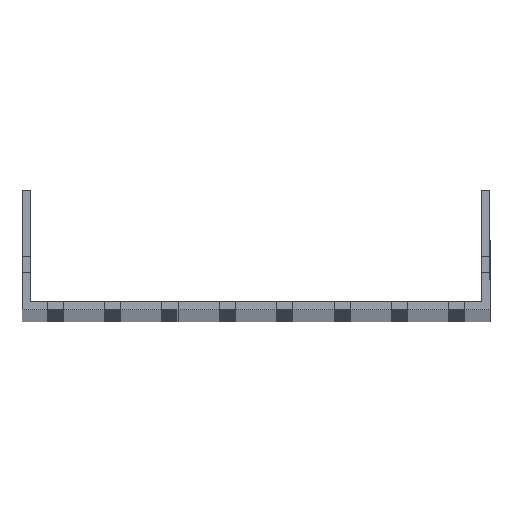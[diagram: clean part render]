
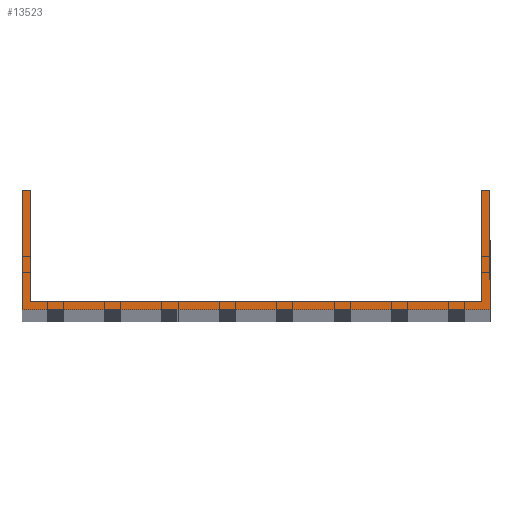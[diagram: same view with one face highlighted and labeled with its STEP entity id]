
A CAD part, top view. The second image highlights one B-rep face of the part: STEP entity #13523.
In plain terms, the highlighted planar face has unit normal (0, 0, 1).
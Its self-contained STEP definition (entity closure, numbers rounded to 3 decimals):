
#2630 = VECTOR ( 'NONE', #93068, 1000. ) ;
#9185 = EDGE_CURVE ( 'NONE', #68483, #31642, #67618, .T. ) ;
#9713 = AXIS2_PLACEMENT_3D ( 'NONE', #51344, #58275, #81585 ) ;
#9883 = ORIENTED_EDGE ( 'NONE', *, *, #77696, .T. ) ;
#11071 = DIRECTION ( 'NONE',  ( 1., 0., 0. ) ) ;
#11807 = DIRECTION ( 'NONE',  ( -1., 0., 0. ) ) ;
#13523 = ADVANCED_FACE ( 'NONE', ( #65233 ), #89037, .T. ) ;
#13838 = VECTOR ( 'NONE', #72020, 1000. ) ;
#13845 = VERTEX_POINT ( 'NONE', #79511 ) ;
#14537 = DIRECTION ( 'NONE',  ( 0., -1., 0. ) ) ;
#18503 = LINE ( 'NONE', #65125, #24981 ) ;
#18997 = LINE ( 'NONE', #94913, #38802 ) ;
#21301 = EDGE_CURVE ( 'NONE', #92745, #68483, #18997, .T. ) ;
#22942 = CARTESIAN_POINT ( 'NONE',  ( -102., 52., 1500. ) ) ;
#24259 = EDGE_CURVE ( 'NONE', #13845, #40666, #18503, .T. ) ;
#24981 = VECTOR ( 'NONE', #40848, 1000. ) ;
#27263 = ORIENTED_EDGE ( 'NONE', *, *, #63530, .T. ) ;
#31642 = VERTEX_POINT ( 'NONE', #63605 ) ;
#34834 = CARTESIAN_POINT ( 'NONE',  ( -102., 0., 1500. ) ) ;
#35128 = LINE ( 'NONE', #43547, #54751 ) ;
#37866 = CARTESIAN_POINT ( 'NONE',  ( 98.5, 52., 1500. ) ) ;
#38802 = VECTOR ( 'NONE', #11071, 1000. ) ;
#39138 = CARTESIAN_POINT ( 'NONE',  ( -102., 52., 1500. ) ) ;
#40666 = VERTEX_POINT ( 'NONE', #49207 ) ;
#40848 = DIRECTION ( 'NONE',  ( 0., 1., 0. ) ) ;
#40976 = CARTESIAN_POINT ( 'NONE',  ( -98.5, 52., 1500. ) ) ;
#41440 = VECTOR ( 'NONE', #58298, 1000. ) ;
#43547 = CARTESIAN_POINT ( 'NONE',  ( -102., 52., 1500. ) ) ;
#43589 = VERTEX_POINT ( 'NONE', #47059 ) ;
#45563 = ORIENTED_EDGE ( 'NONE', *, *, #9185, .F. ) ;
#47059 = CARTESIAN_POINT ( 'NONE',  ( -98.5, 52., 1500. ) ) ;
#48827 = VERTEX_POINT ( 'NONE', #34834 ) ;
#49207 = CARTESIAN_POINT ( 'NONE',  ( 102., 52., 1500. ) ) ;
#49240 = LINE ( 'NONE', #79473, #13838 ) ;
#51344 = CARTESIAN_POINT ( 'NONE',  ( 0., 0., 1500. ) ) ;
#54751 = VECTOR ( 'NONE', #11807, 1000. ) ;
#55881 = ORIENTED_EDGE ( 'NONE', *, *, #21301, .F. ) ;
#57169 = VERTEX_POINT ( 'NONE', #39138 ) ;
#57769 = EDGE_CURVE ( 'NONE', #40666, #31642, #96507, .T. ) ;
#58275 = DIRECTION ( 'NONE',  ( 0., 0., 1. ) ) ;
#58298 = DIRECTION ( 'NONE',  ( -1., 0., 0. ) ) ;
#62562 = EDGE_CURVE ( 'NONE', #43589, #92745, #62795, .T. ) ;
#62795 = LINE ( 'NONE', #40976, #2630 ) ;
#62961 = ORIENTED_EDGE ( 'NONE', *, *, #24259, .T. ) ;
#63530 = EDGE_CURVE ( 'NONE', #48827, #13845, #49240, .T. ) ;
#63605 = CARTESIAN_POINT ( 'NONE',  ( 98.5, 52., 1500. ) ) ;
#65125 = CARTESIAN_POINT ( 'NONE',  ( 102., 52., 1500. ) ) ;
#65233 = FACE_OUTER_BOUND ( 'NONE', #65410, .T. ) ;
#65410 = EDGE_LOOP ( 'NONE', ( #80076, #83388, #9883, #27263, #62961, #92901, #45563, #55881 ) ) ;
#67618 = LINE ( 'NONE', #37866, #70837 ) ;
#68483 = VERTEX_POINT ( 'NONE', #87294 ) ;
#70837 = VECTOR ( 'NONE', #91416, 1000. ) ;
#72020 = DIRECTION ( 'NONE',  ( 1., 0., 0. ) ) ;
#73705 = EDGE_CURVE ( 'NONE', #43589, #57169, #35128, .T. ) ;
#74482 = CARTESIAN_POINT ( 'NONE',  ( -98.5, 3.5, 1500. ) ) ;
#77696 = EDGE_CURVE ( 'NONE', #57169, #48827, #90931, .T. ) ;
#79473 = CARTESIAN_POINT ( 'NONE',  ( -102., 0., 1500. ) ) ;
#79511 = CARTESIAN_POINT ( 'NONE',  ( 102., 0., 1500. ) ) ;
#80076 = ORIENTED_EDGE ( 'NONE', *, *, #62562, .F. ) ;
#80443 = VECTOR ( 'NONE', #14537, 1000. ) ;
#81585 = DIRECTION ( 'NONE',  ( 1., 0., 0. ) ) ;
#81605 = CARTESIAN_POINT ( 'NONE',  ( -102., 52., 1500. ) ) ;
#83388 = ORIENTED_EDGE ( 'NONE', *, *, #73705, .T. ) ;
#87294 = CARTESIAN_POINT ( 'NONE',  ( 98.5, 3.5, 1500. ) ) ;
#89037 = PLANE ( 'NONE',  #9713 ) ;
#90931 = LINE ( 'NONE', #22942, #80443 ) ;
#91416 = DIRECTION ( 'NONE',  ( 0., 1., 0. ) ) ;
#92745 = VERTEX_POINT ( 'NONE', #74482 ) ;
#92901 = ORIENTED_EDGE ( 'NONE', *, *, #57769, .T. ) ;
#93068 = DIRECTION ( 'NONE',  ( 0., -1., 0. ) ) ;
#94913 = CARTESIAN_POINT ( 'NONE',  ( -102., 3.5, 1500. ) ) ;
#96507 = LINE ( 'NONE', #81605, #41440 ) ;
